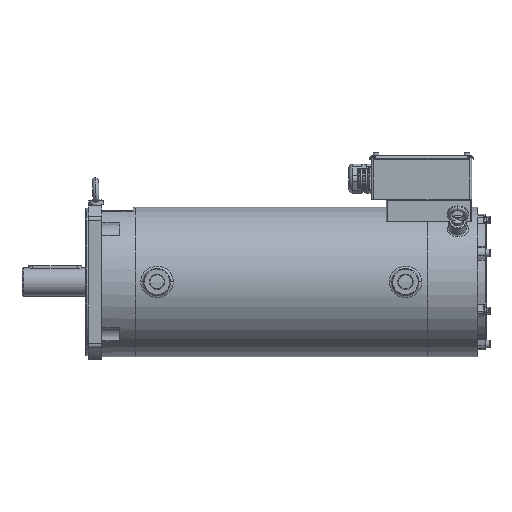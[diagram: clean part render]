
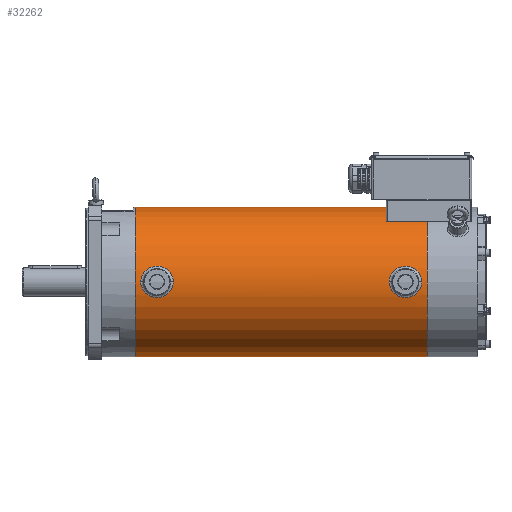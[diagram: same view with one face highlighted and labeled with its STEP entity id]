
A CAD part, top view. The second image highlights one B-rep face of the part: STEP entity #32262.
In plain terms, the highlighted cylindrical face has radius 126.5 mm (diameter 253 mm), a partial arc.
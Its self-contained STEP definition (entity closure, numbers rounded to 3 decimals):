
#23626=DIRECTION('',(-1.,0.,0.));
#23627=VECTOR('',#23626,494.5);
#23628=CARTESIAN_POINT('',(686.,126.5,
0.011));
#23629=LINE('',#23628,#23627);
#23711=CARTESIAN_POINT('',(686.,0.,
0.));
#23712=DIRECTION('',(1.,0.,0.));
#23713=DIRECTION('',(0.,1.,0.));
#23714=AXIS2_PLACEMENT_3D('',#23711,#23712,#23713);
#23716=DIRECTION('',(-1.,0.,0.));
#23717=VECTOR('',#23716,494.5);
#23718=CARTESIAN_POINT('',(686.,-126.5,
-0.011));
#23719=LINE('',#23718,#23717);
#23720=CARTESIAN_POINT('',(191.5,0.,
0.));
#23721=DIRECTION('',(-1.,0.,0.));
#23722=DIRECTION('',(0.,-1.,0.));
#23723=AXIS2_PLACEMENT_3D('',#23720,#23721,#23722);
#23725=CARTESIAN_POINT('',(621.5,-0.011,
126.5));
#23726=CARTESIAN_POINT('',(621.5,-1.865,
126.5));
#23727=CARTESIAN_POINT('',(621.9,-5.484,
126.418));
#23728=CARTESIAN_POINT('',(623.615,-10.668,
126.083));
#23729=CARTESIAN_POINT('',(626.464,-15.511,
125.573));
#23730=CARTESIAN_POINT('',(630.332,-19.704,
124.976));
#23731=CARTESIAN_POINT('',(635.05,-23.039,
124.395));
#23732=CARTESIAN_POINT('',(640.384,-25.341,
123.94));
#23733=CARTESIAN_POINT('',(646.092,-26.515,
123.69));
#23734=CARTESIAN_POINT('',(651.933,-26.514,
123.69));
#23735=CARTESIAN_POINT('',(657.657,-25.328,
123.942));
#23736=CARTESIAN_POINT('',(662.987,-23.019,
124.399));
#23737=CARTESIAN_POINT('',(667.685,-19.679,
124.979));
#23738=CARTESIAN_POINT('',(671.448,-15.618,
125.559));
#23739=CARTESIAN_POINT('',(674.39,-10.708,
126.084));
#23740=CARTESIAN_POINT('',(676.16,-5.233,
126.43));
#23741=CARTESIAN_POINT('',(676.5,-1.752,
126.5));
#23742=CARTESIAN_POINT('',(676.5,-0.011,
126.5));
#23744=CARTESIAN_POINT('',(676.5,-0.011,
126.5));
#23745=CARTESIAN_POINT('',(676.5,1.843,126.5));
#23746=CARTESIAN_POINT('',(676.1,5.462,126.419));
#23747=CARTESIAN_POINT('',(674.385,10.646,126.085));
#23748=CARTESIAN_POINT('',(671.536,15.489,125.576));
#23749=CARTESIAN_POINT('',(667.669,19.682,124.979));
#23750=CARTESIAN_POINT('',(662.95,23.017,124.399));
#23751=CARTESIAN_POINT('',(657.616,25.319,123.944));
#23752=CARTESIAN_POINT('',(651.908,26.493,123.695));
#23753=CARTESIAN_POINT('',(646.068,26.492,123.695));
#23754=CARTESIAN_POINT('',(640.343,25.307,123.947));
#23755=CARTESIAN_POINT('',(635.013,22.998,124.403));
#23756=CARTESIAN_POINT('',(630.316,19.658,124.982));
#23757=CARTESIAN_POINT('',(626.552,15.596,125.562));
#23758=CARTESIAN_POINT('',(623.61,10.686,126.085));
#23759=CARTESIAN_POINT('',(621.84,5.211,126.431));
#23760=CARTESIAN_POINT('',(621.5,1.731,126.5));
#23761=CARTESIAN_POINT('',(621.5,-0.011,
126.5));
#23763=CARTESIAN_POINT('',(201.,-0.011,
126.5));
#23764=CARTESIAN_POINT('',(201.,-1.865,
126.5));
#23765=CARTESIAN_POINT('',(201.4,-5.484,
126.418));
#23766=CARTESIAN_POINT('',(203.115,-10.668,
126.083));
#23767=CARTESIAN_POINT('',(205.964,-15.511,
125.573));
#23768=CARTESIAN_POINT('',(209.832,-19.704,
124.976));
#23769=CARTESIAN_POINT('',(214.55,-23.039,
124.395));
#23770=CARTESIAN_POINT('',(219.884,-25.341,
123.94));
#23771=CARTESIAN_POINT('',(225.592,-26.515,
123.69));
#23772=CARTESIAN_POINT('',(231.433,-26.514,
123.69));
#23773=CARTESIAN_POINT('',(237.157,-25.328,
123.942));
#23774=CARTESIAN_POINT('',(242.487,-23.019,
124.399));
#23775=CARTESIAN_POINT('',(247.185,-19.679,
124.979));
#23776=CARTESIAN_POINT('',(250.948,-15.618,
125.559));
#23777=CARTESIAN_POINT('',(253.89,-10.708,
126.084));
#23778=CARTESIAN_POINT('',(255.66,-5.233,
126.43));
#23779=CARTESIAN_POINT('',(256.,-1.752,
126.5));
#23780=CARTESIAN_POINT('',(256.,-0.011,
126.5));
#23782=CARTESIAN_POINT('',(256.,-0.011,
126.5));
#23783=CARTESIAN_POINT('',(256.,1.843,126.5));
#23784=CARTESIAN_POINT('',(255.6,5.462,126.419));
#23785=CARTESIAN_POINT('',(253.885,10.646,126.085));
#23786=CARTESIAN_POINT('',(251.036,15.489,125.576));
#23787=CARTESIAN_POINT('',(247.169,19.682,124.979));
#23788=CARTESIAN_POINT('',(242.45,23.017,124.399));
#23789=CARTESIAN_POINT('',(237.116,25.319,123.944));
#23790=CARTESIAN_POINT('',(231.408,26.493,123.695));
#23791=CARTESIAN_POINT('',(225.568,26.492,123.695));
#23792=CARTESIAN_POINT('',(219.843,25.307,123.947));
#23793=CARTESIAN_POINT('',(214.513,22.998,124.403));
#23794=CARTESIAN_POINT('',(209.816,19.658,124.982));
#23795=CARTESIAN_POINT('',(206.052,15.596,125.562));
#23796=CARTESIAN_POINT('',(203.11,10.686,126.085));
#23797=CARTESIAN_POINT('',(201.34,5.211,126.431));
#23798=CARTESIAN_POINT('',(201.,1.731,126.5));
#23799=CARTESIAN_POINT('',(201.,-0.011,
126.5));
#31805=CARTESIAN_POINT('',(686.,126.5,
0.011));
#31806=CARTESIAN_POINT('',(686.,-126.5,
-0.011));
#31807=VERTEX_POINT('',#31805);
#31808=VERTEX_POINT('',#31806);
#31809=CARTESIAN_POINT('',(191.5,126.5,
0.011));
#31810=CARTESIAN_POINT('',(191.5,-126.5,
-0.011));
#31811=VERTEX_POINT('',#31809);
#31812=VERTEX_POINT('',#31810);
#32169=VERTEX_POINT('',#23725);
#32170=VERTEX_POINT('',#23742);
#32173=VERTEX_POINT('',#23763);
#32174=VERTEX_POINT('',#23780);
#32237=CARTESIAN_POINT('',(686.,0.,
0.));
#32238=DIRECTION('',(-1.,0.,0.));
#32239=DIRECTION('',(0.,1.,0.));
#32240=AXIS2_PLACEMENT_3D('',#32237,#32238,#32239);
#32241=CYLINDRICAL_SURFACE('',#32240,126.5);
#32243=ORIENTED_EDGE('',*,*,#32242,.T.);
#32244=ORIENTED_EDGE('',*,*,#32220,.T.);
#32246=ORIENTED_EDGE('',*,*,#32245,.T.);
#32247=ORIENTED_EDGE('',*,*,#32216,.F.);
#32248=EDGE_LOOP('',(#32243,#32244,#32246,#32247));
#32249=FACE_OUTER_BOUND('',#32248,.F.);
#32251=ORIENTED_EDGE('',*,*,#32250,.T.);
#32253=ORIENTED_EDGE('',*,*,#32252,.T.);
#32254=EDGE_LOOP('',(#32251,#32253));
#32255=FACE_BOUND('',#32254,.F.);
#32257=ORIENTED_EDGE('',*,*,#32256,.T.);
#32259=ORIENTED_EDGE('',*,*,#32258,.T.);
#32260=EDGE_LOOP('',(#32257,#32259));
#32261=FACE_BOUND('',#32260,.F.);
#32262=ADVANCED_FACE('',(#32249,#32255,#32261),#32241,.T.);
#23715=CIRCLE('',#23714,126.5);
#23724=CIRCLE('',#23723,126.5);
#23743=B_SPLINE_CURVE_WITH_KNOTS('',3,(#23725,#23726,#23727,#23728,#23729,
#23730,#23731,#23732,#23733,#23734,#23735,#23736,#23737,#23738,#23739,#23740,
#23741,#23742),.UNSPECIFIED.,.F.,.F.,(4,1,1,1,1,1,1,1,1,1,1,1,1,1,1,4),(0.,
0.067,0.133,0.2,0.267,0.333,
0.4,0.467,0.533,0.6,0.667,
0.733,0.8,0.867,0.933,1.),
.UNSPECIFIED.);
#23762=B_SPLINE_CURVE_WITH_KNOTS('',3,(#23744,#23745,#23746,#23747,#23748,
#23749,#23750,#23751,#23752,#23753,#23754,#23755,#23756,#23757,#23758,#23759,
#23760,#23761),.UNSPECIFIED.,.F.,.F.,(4,1,1,1,1,1,1,1,1,1,1,1,1,1,1,4),(0.,
0.067,0.133,0.2,0.267,0.333,
0.4,0.467,0.533,0.6,0.667,
0.733,0.8,0.867,0.933,1.),
.UNSPECIFIED.);
#23781=B_SPLINE_CURVE_WITH_KNOTS('',3,(#23763,#23764,#23765,#23766,#23767,
#23768,#23769,#23770,#23771,#23772,#23773,#23774,#23775,#23776,#23777,#23778,
#23779,#23780),.UNSPECIFIED.,.F.,.F.,(4,1,1,1,1,1,1,1,1,1,1,1,1,1,1,4),(0.,
0.067,0.133,0.2,0.267,0.333,
0.4,0.467,0.533,0.6,0.667,
0.733,0.8,0.867,0.933,1.),
.UNSPECIFIED.);
#23800=B_SPLINE_CURVE_WITH_KNOTS('',3,(#23782,#23783,#23784,#23785,#23786,
#23787,#23788,#23789,#23790,#23791,#23792,#23793,#23794,#23795,#23796,#23797,
#23798,#23799),.UNSPECIFIED.,.F.,.F.,(4,1,1,1,1,1,1,1,1,1,1,1,1,1,1,4),(0.,
0.067,0.133,0.2,0.267,0.333,
0.4,0.467,0.533,0.6,0.667,
0.733,0.8,0.867,0.933,1.),
.UNSPECIFIED.);
#32216=EDGE_CURVE('',#31807,#31811,#23629,.T.);
#32220=EDGE_CURVE('',#31808,#31812,#23719,.T.);
#32242=EDGE_CURVE('',#31807,#31808,#23715,.T.);
#32245=EDGE_CURVE('',#31812,#31811,#23724,.T.);
#32250=EDGE_CURVE('',#32169,#32170,#23743,.T.);
#32252=EDGE_CURVE('',#32170,#32169,#23762,.T.);
#32256=EDGE_CURVE('',#32173,#32174,#23781,.T.);
#32258=EDGE_CURVE('',#32174,#32173,#23800,.T.);
